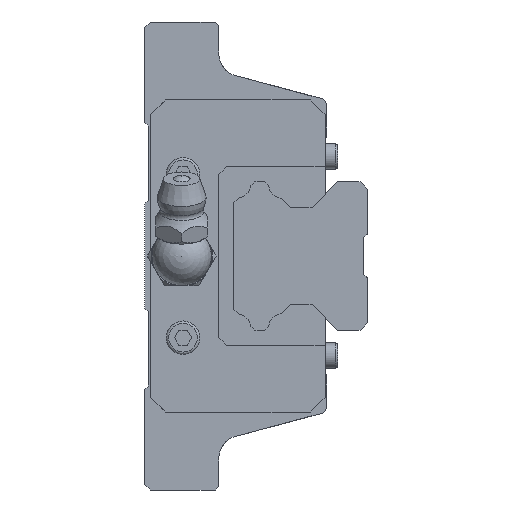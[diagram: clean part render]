
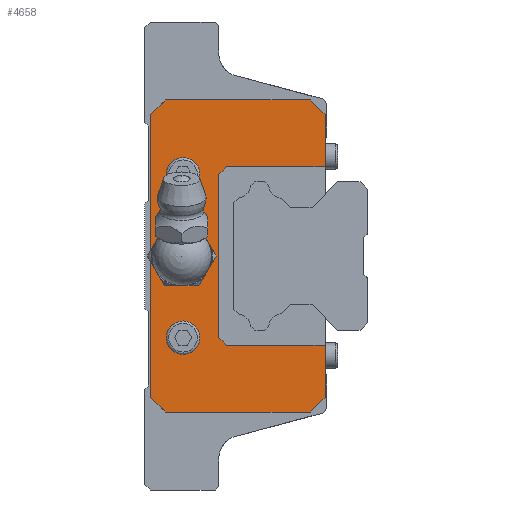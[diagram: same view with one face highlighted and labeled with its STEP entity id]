
A CAD part, left-side view. The second image highlights one B-rep face of the part: STEP entity #4658.
In plain terms, the highlighted planar face has unit normal (-1, 0, 0).
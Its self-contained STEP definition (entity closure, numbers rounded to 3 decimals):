
#222=CIRCLE('',#5057,3.);
#223=CIRCLE('',#5058,2.25);
#224=CIRCLE('',#5059,2.25);
#377=LINE('',#6841,#857);
#390=LINE('',#6868,#870);
#393=LINE('',#6873,#873);
#403=LINE('',#6893,#883);
#410=LINE('',#6907,#890);
#414=LINE('',#6914,#894);
#443=LINE('',#6969,#923);
#465=LINE('',#7021,#945);
#471=LINE('',#7038,#951);
#619=LINE('',#7499,#1099);
#620=LINE('',#7502,#1100);
#621=LINE('',#7503,#1101);
#622=LINE('',#7505,#1102);
#623=LINE('',#7507,#1103);
#857=VECTOR('',#5530,1000.);
#870=VECTOR('',#5545,1000.);
#873=VECTOR('',#5550,1000.);
#883=VECTOR('',#5564,1000.);
#890=VECTOR('',#5575,1000.);
#894=VECTOR('',#5581,1000.);
#923=VECTOR('',#5624,1000.);
#945=VECTOR('',#5662,1000.);
#951=VECTOR('',#5674,1000.);
#1099=VECTOR('',#6052,1000.);
#1100=VECTOR('',#6053,1000.);
#1101=VECTOR('',#6054,1000.);
#1102=VECTOR('',#6055,1000.);
#1103=VECTOR('',#6056,1000.);
#2007=ORIENTED_EDGE('',*,*,#2977,.T.);
#2008=ORIENTED_EDGE('',*,*,#2978,.F.);
#2009=ORIENTED_EDGE('',*,*,#2979,.F.);
#2010=ORIENTED_EDGE('',*,*,#2980,.T.);
#2011=ORIENTED_EDGE('',*,*,#2981,.T.);
#2012=ORIENTED_EDGE('',*,*,#2762,.F.);
#2013=ORIENTED_EDGE('',*,*,#2707,.F.);
#2014=ORIENTED_EDGE('',*,*,#2703,.F.);
#2015=ORIENTED_EDGE('',*,*,#2696,.F.);
#2016=ORIENTED_EDGE('',*,*,#2736,.F.);
#2017=ORIENTED_EDGE('',*,*,#2670,.F.);
#2018=ORIENTED_EDGE('',*,*,#2686,.F.);
#2019=ORIENTED_EDGE('',*,*,#2683,.F.);
#2020=ORIENTED_EDGE('',*,*,#2770,.F.);
#2021=ORIENTED_EDGE('',*,*,#2982,.T.);
#2022=ORIENTED_EDGE('',*,*,#2983,.T.);
#2023=ORIENTED_EDGE('',*,*,#2984,.T.);
#2670=EDGE_CURVE('',#3275,#3276,#377,.T.);
#2683=EDGE_CURVE('',#3288,#3289,#390,.T.);
#2686=EDGE_CURVE('',#3289,#3275,#393,.T.);
#2696=EDGE_CURVE('',#3297,#3298,#403,.T.);
#2703=EDGE_CURVE('',#3298,#3303,#410,.T.);
#2707=EDGE_CURVE('',#3303,#3305,#414,.T.);
#2736=EDGE_CURVE('',#3276,#3297,#443,.T.);
#2762=EDGE_CURVE('',#3305,#3346,#465,.T.);
#2770=EDGE_CURVE('',#3353,#3288,#471,.T.);
#2977=EDGE_CURVE('',#3509,#3509,#222,.T.);
#2978=EDGE_CURVE('',#3510,#3510,#223,.F.);
#2979=EDGE_CURVE('',#3511,#3511,#224,.F.);
#2980=EDGE_CURVE('',#3512,#3513,#619,.T.);
#2981=EDGE_CURVE('',#3513,#3346,#620,.T.);
#2982=EDGE_CURVE('',#3353,#3514,#621,.T.);
#2983=EDGE_CURVE('',#3514,#3515,#622,.T.);
#2984=EDGE_CURVE('',#3515,#3512,#623,.T.);
#3275=VERTEX_POINT('',#6840);
#3276=VERTEX_POINT('',#6842);
#3288=VERTEX_POINT('',#6867);
#3289=VERTEX_POINT('',#6869);
#3297=VERTEX_POINT('',#6892);
#3298=VERTEX_POINT('',#6894);
#3303=VERTEX_POINT('',#6908);
#3305=VERTEX_POINT('',#6915);
#3346=VERTEX_POINT('',#7022);
#3353=VERTEX_POINT('',#7037);
#3509=VERTEX_POINT('',#7494);
#3510=VERTEX_POINT('',#7496);
#3511=VERTEX_POINT('',#7498);
#3512=VERTEX_POINT('',#7500);
#3513=VERTEX_POINT('',#7501);
#3514=VERTEX_POINT('',#7504);
#3515=VERTEX_POINT('',#7506);
#3815=EDGE_LOOP('',(#2007));
#3816=EDGE_LOOP('',(#2008));
#3817=EDGE_LOOP('',(#2009));
#3818=EDGE_LOOP('',(#2010,#2011,#2012,#2013,#2014,#2015,#2016,#2017,#2018,
#2019,#2020,#2021,#2022,#2023));
#4160=FACE_BOUND('',#3815,.T.);
#4161=FACE_BOUND('',#3816,.T.);
#4162=FACE_BOUND('',#3817,.T.);
#4163=FACE_BOUND('',#3818,.T.);
#4432=PLANE('',#5056);
#4658=ADVANCED_FACE('',(#4160,#4161,#4162,#4163),#4432,.F.);
#5056=AXIS2_PLACEMENT_3D('',#7492,#6044,#6045);
#5057=AXIS2_PLACEMENT_3D('',#7493,#6046,#6047);
#5058=AXIS2_PLACEMENT_3D('',#7495,#6048,#6049);
#5059=AXIS2_PLACEMENT_3D('',#7497,#6050,#6051);
#5530=DIRECTION('',(0.,0.707,0.707));
#5545=DIRECTION('',(0.,0.707,-0.707));
#5550=DIRECTION('',(0.,1.,0.));
#5564=DIRECTION('',(0.,-0.707,0.707));
#5575=DIRECTION('',(0.,-1.,0.));
#5581=DIRECTION('',(0.,-0.707,-0.707));
#5624=DIRECTION('',(0.,0.,1.));
#5662=DIRECTION('',(0.,0.,-1.));
#5674=DIRECTION('',(0.,0.,-1.));
#6044=DIRECTION('',(1.,0.,0.));
#6045=DIRECTION('',(0.,0.,-1.));
#6046=DIRECTION('',(1.,0.,0.));
#6047=DIRECTION('',(0.,0.,-1.));
#6048=DIRECTION('',(1.,0.,0.));
#6049=DIRECTION('',(0.,0.,-1.));
#6050=DIRECTION('',(1.,0.,0.));
#6051=DIRECTION('',(0.,0.,-1.));
#6052=DIRECTION('',(0.,-0.707,0.707));
#6053=DIRECTION('',(0.,-1.,0.));
#6054=DIRECTION('',(0.,1.,0.));
#6055=DIRECTION('',(0.,0.707,0.707));
#6056=DIRECTION('',(0.,0.,1.));
#6840=CARTESIAN_POINT('',(-44.,23.2,-21.));
#6841=CARTESIAN_POINT('',(-44.,23.2,-21.));
#6842=CARTESIAN_POINT('',(-44.,25.2,-19.));
#6867=CARTESIAN_POINT('',(-44.,1.7,-19.));
#6868=CARTESIAN_POINT('',(-44.,1.7,-19.));
#6869=CARTESIAN_POINT('',(-44.,3.7,-21.));
#6873=CARTESIAN_POINT('',(-44.,0.,-21.));
#6892=CARTESIAN_POINT('',(-44.,25.2,19.));
#6893=CARTESIAN_POINT('',(-44.,25.2,19.));
#6894=CARTESIAN_POINT('',(-44.,23.2,21.));
#6907=CARTESIAN_POINT('',(-44.,26.,21.));
#6908=CARTESIAN_POINT('',(-44.,3.7,21.));
#6914=CARTESIAN_POINT('',(-44.,3.7,21.));
#6915=CARTESIAN_POINT('',(-44.,1.7,19.));
#6969=CARTESIAN_POINT('',(-44.,25.2,-19.));
#7021=CARTESIAN_POINT('',(-44.,1.7,16.001));
#7022=CARTESIAN_POINT('',(-44.,1.7,12.));
#7037=CARTESIAN_POINT('',(-44.,1.7,-12.));
#7038=CARTESIAN_POINT('',(-44.,1.7,16.001));
#7492=CARTESIAN_POINT('',(-44.,0.,0.));
#7493=CARTESIAN_POINT('',(-44.,21.,0.));
#7494=CARTESIAN_POINT('',(-44.,21.,-3.));
#7495=CARTESIAN_POINT('',(-44.,20.817,11.));
#7496=CARTESIAN_POINT('',(-44.,20.817,8.75));
#7497=CARTESIAN_POINT('',(-44.,20.817,-11.));
#7498=CARTESIAN_POINT('',(-44.,20.817,-13.25));
#7499=CARTESIAN_POINT('',(-44.,16.,11.));
#7500=CARTESIAN_POINT('',(-44.,16.,11.));
#7501=CARTESIAN_POINT('',(-44.,15.,12.));
#7502=CARTESIAN_POINT('',(-44.,15.,12.));
#7503=CARTESIAN_POINT('',(-44.,1.7,-12.));
#7504=CARTESIAN_POINT('',(-44.,15.,-12.));
#7505=CARTESIAN_POINT('',(-44.,15.,-12.));
#7506=CARTESIAN_POINT('',(-44.,16.,-11.));
#7507=CARTESIAN_POINT('',(-44.,16.,-11.));
